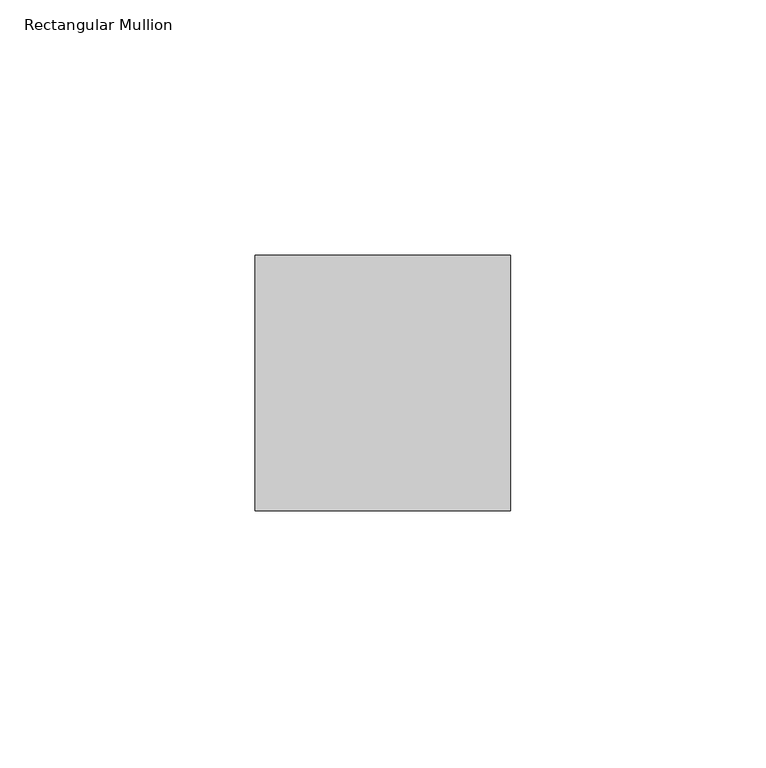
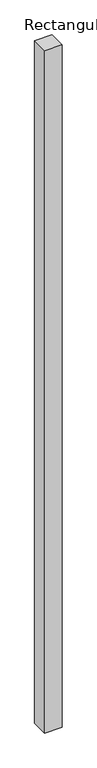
"""IFC4 building model written with IfcOpenShell, lengths in millimetres: member geometry, Rectangular Mullion : Mullion_Curtain Wall_Generic Showcase_50x50mm."""

from ifc_helpers import new_model, si_unit, frame, origin, place, context, project, spatial, polyline, outline, extrude, source, transform, mapped, element, save


def rectangular_mullion_a8cc1a1c(model_context):
    return source(origin(), model_context, "Body", "SweptSolid", [
        extrude(outline(polyline([(25.0, 50.0), (25.0, 0.0), (-25.0, 0.0), (-25.0, 50.0), (25.0, 50.0)])), frame((0.0, 0.0, -2075.0), z_axis=(0.0, 0.0, 1.0), x_axis=(1.0, 0.0, 0.0)), (0.0, 0.0, 1.0), 2075.0),
    ])


if __name__ == "__main__":
    model = new_model("IFC4")
    model_context = context("Model", 3, world=origin())
    ifc_project = project(units=[si_unit("LENGTHUNIT", "METRE", prefix="MILLI")], contexts=[model_context])
    site = spatial("IfcSite", under=ifc_project)
    building = spatial("IfcBuilding", under=site)
    placement = place(None, origin())
    rectangular_mullion_shape = rectangular_mullion_a8cc1a1c(model_context)
    element("IfcMember", 1, ObjectType="Rectangular Mullion : Mullion_Curtain Wall_Generic Showcase_50x50mm", at=placement, inside=building, context=model_context, shape_type="MappedRepresentation", body=[
        mapped(rectangular_mullion_shape, transform((0.0, 0.0, 0.0), x_axis=(1.0, 0.0, 0.0), y_axis=(0.0, 1.0, 0.0), z_axis=(0.0, 0.0, 1.0))),
    ])
    save(model, "model.ifc")
